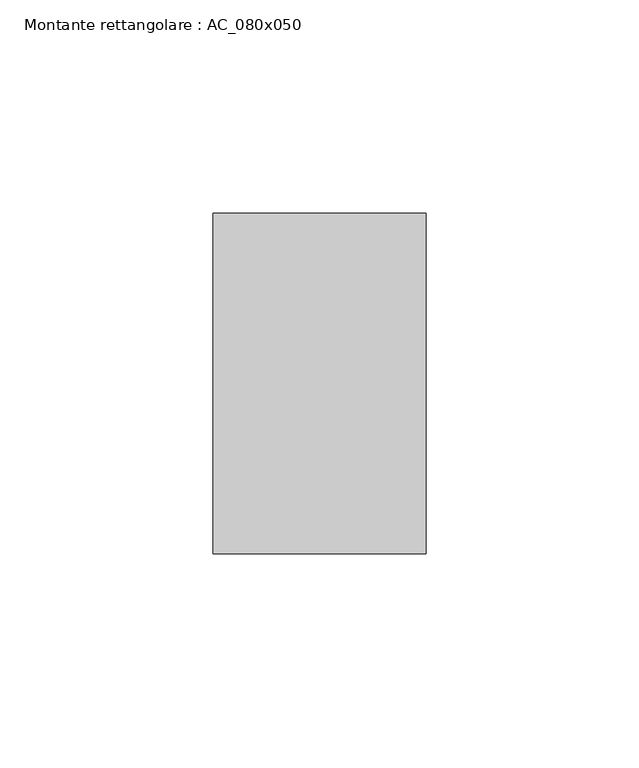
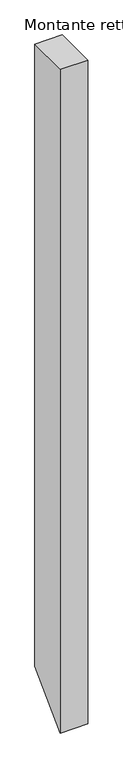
"""IFC4 building model written with IfcOpenShell, lengths in millimetres: member geometry, Montante rettangolare : AC_080x050."""

from ifc_helpers import new_model, si_unit, frame, origin, place, context, project, spatial, polyline, outline, extrude, source, transform, mapped, element, save


def montante_rettangolare_ac_080x050_6435da1d(model_context):
    return source(origin(), model_context, "Body", "SweptSolid", [
        extrude(outline(polyline([(-40.0, 0.0), (40.0, 0.0), (40.0, -1196.1882549), (-40.0, -1276.1882549), (-40.0, 0.0)])), frame((-50.0, 0.0, 0.0), z_axis=(1.0, 0.0, 0.0), x_axis=(0.0, 1.0, 0.0)), (0.0, 0.0, 1.0), 50.0),
    ])


if __name__ == "__main__":
    model = new_model("IFC4")
    model_context = context("Model", 3, world=origin())
    ifc_project = project(units=[si_unit("LENGTHUNIT", "METRE", prefix="MILLI")], contexts=[model_context])
    site = spatial("IfcSite", under=ifc_project)
    building = spatial("IfcBuilding", under=site)
    placement = place(None, origin())
    montante_rettangolare_ac_080x050_shape = montante_rettangolare_ac_080x050_6435da1d(model_context)
    element("IfcMember", 1, ObjectType="Montante rettangolare : AC_080x050", at=placement, inside=building, context=model_context, shape_type="MappedRepresentation", body=[
        mapped(montante_rettangolare_ac_080x050_shape, transform((0.0, 0.0, 0.0), x_axis=(1.0, 0.0, 0.0), y_axis=(0.0, 1.0, 0.0), z_axis=(0.0, 0.0, 1.0))),
    ])
    save(model, "model.ifc")
